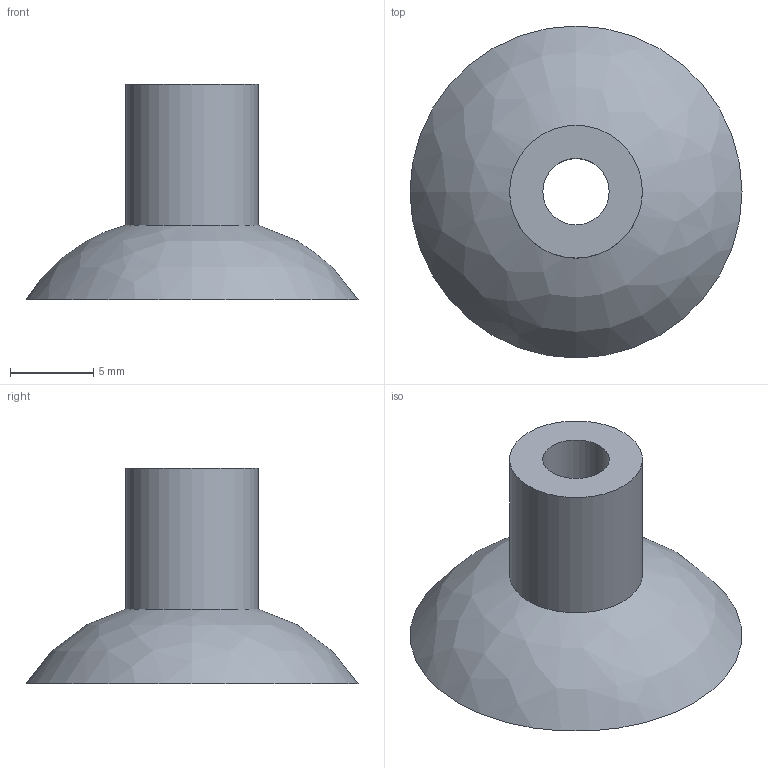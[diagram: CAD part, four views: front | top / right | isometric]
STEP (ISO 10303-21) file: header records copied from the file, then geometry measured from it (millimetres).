
FILE_DESCRIPTION(('STEP AP214'),'1');
FILE_NAME('CA.08.03.006.stp','2019-04-18T09:06:56',(' '),(' '),'Spatial InterOp 3D',' ',' ');
FILE_SCHEMA(('AUTOMOTIVE_DESIGN { 1 0 10303 214 1 1 1 1 }'));
Length unit declared in the file: millimetre
Products named in the file (1): CA.08.03.006
Bounding box: 20 x 20 x 13 mm (x, y, z)
Volume: 474.5 mm3; surface area: 1087.4 mm2
Topology: 1 solids, 1 shells, 7 faces, 11 edges, 7 vertices
Faces by surface type: plane 3, cylinder 2, bspline 2
Full cylindrical faces by diameter (mm): 4 x1, 8 x1
Entity records: 266 total; most frequent: CARTESIAN_POINT 76, DIRECTION 26, EDGE_LOOP 14, ORIENTED_EDGE 14, AXIS2_PLACEMENT_3D 13, FACE_OUTER_BOUND 11, STYLED_ITEM 7, PRESENTATION_STYLE_ASSIGNMENT 7
